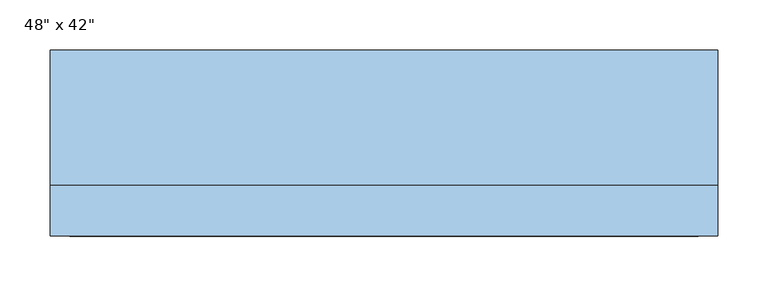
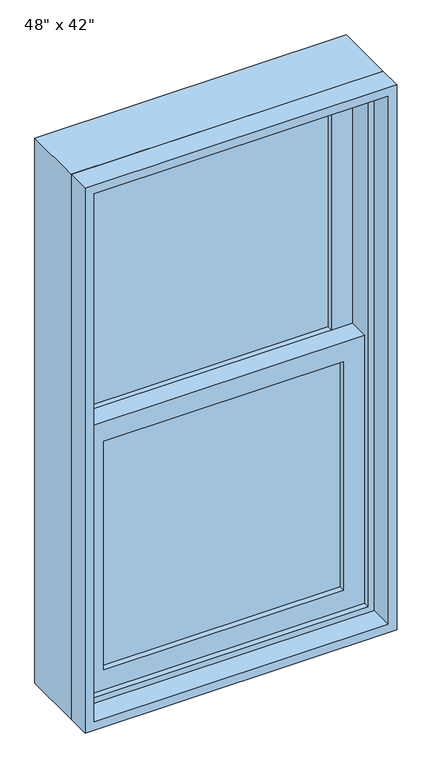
"""IFC4 building model written with IfcOpenShell, lengths in millimetres: window geometry."""

from ifc_helpers import new_model, si_unit, frame, origin, place, context, project, spatial, polyline, outline, extrude, source, transform, mapped, element, save


def window_dda3fa21(model_context):
    return source(origin(), model_context, "Body", "SweptSolid", [
        extrude(outline(polyline([(254.0, 12.7), (254.0, 6.35), (-254.0, 6.35), (-254.0, 12.7), (254.0, 12.7)])), frame((0.0, 0.0, 990.6), z_axis=(0.0, 0.0, 1.0), x_axis=(1.0, 0.0, 0.0)), (0.0, 0.0, 1.0), 511.175),
        extrude(outline(polyline([(-254.0, 0.0), (254.0, 0.0), (254.0, -6.35), (-254.0, -6.35), (-254.0, 0.0)])), frame((0.0, 0.0, 990.6), z_axis=(0.0, 0.0, 1.0), x_axis=(1.0, 0.0, 0.0)), (0.0, 0.0, 1.0), 511.175),
        extrude(outline(polyline([(254.0, 57.15), (254.0, 50.8), (-254.0, 50.8), (-254.0, 57.15), (254.0, 57.15)])), frame((0.0, 0.0, 1546.225), z_axis=(0.0, 0.0, 1.0), x_axis=(1.0, 0.0, 0.0)), (0.0, 0.0, 1.0), 511.175),
        extrude(outline(polyline([(-254.0, 44.45), (254.0, 44.45), (254.0, 38.1), (-254.0, 38.1), (-254.0, 44.45)])), frame((0.0, 0.0, 1546.225), z_axis=(0.0, 0.0, 1.0), x_axis=(1.0, 0.0, 0.0)), (0.0, 0.0, 1.0), 511.175),
        extrude(outline(polyline([(1546.225, -298.45), (946.15, -298.45), (946.15, 298.45), (1546.225, 298.45), (1546.225, -298.45)]), holes=[polyline([(1501.775, 254.0), (990.6, 254.0), (990.6, -254.0), (1501.775, -254.0), (1501.775, 254.0)])]), frame((0.0, -19.05, 0.0), z_axis=(0.0, 1.0, 0.0), x_axis=(0.0, 0.0, 1.0)), (0.0, 0.0, 1.0), 44.45),
        extrude(outline(polyline([(2101.85, -298.45), (1501.775, -298.45), (1501.775, 298.45), (2101.85, 298.45), (2101.85, -298.45)]), holes=[polyline([(2057.4, 254.0), (1546.225, 254.0), (1546.225, -254.0), (2057.4, -254.0), (2057.4, 254.0)])]), frame((0.0, 25.4, 0.0), z_axis=(0.0, 1.0, 0.0), x_axis=(0.0, 0.0, 1.0)), (0.0, 0.0, 1.0), 44.45),
        extrude(outline(polyline([(2133.6, -330.2), (914.4, -330.2), (914.4, 330.2), (2133.6, 330.2), (2133.6, -330.2)]), holes=[polyline([(2101.85, 298.45), (946.15, 298.45), (946.15, -298.45), (2101.85, -298.45), (2101.85, 298.45)])]), frame((0.0, -31.75, 0.0), z_axis=(0.0, 1.0, 0.0), x_axis=(0.0, 0.0, 1.0)), (0.0, 0.0, 1.0), 133.35),
        extrude(outline(polyline([(2133.6, 330.2), (2133.6, -330.2), (914.4, -330.2), (914.4, 330.2), (2133.6, 330.2)]), holes=[polyline([(2114.55, 311.15), (933.45, 311.15), (933.45, -311.15), (2114.55, -311.15), (2114.55, 311.15)])]), frame((0.0, -82.55, 0.0), z_axis=(0.0, 1.0, 0.0), x_axis=(0.0, 0.0, 1.0)), (0.0, 0.0, 1.0), 50.8),
    ])


if __name__ == "__main__":
    model = new_model("IFC4")
    model_context = context("Model", 3, world=origin())
    ifc_project = project(units=[si_unit("LENGTHUNIT", "METRE", prefix="MILLI")], contexts=[model_context])
    site = spatial("IfcSite", under=ifc_project)
    building = spatial("IfcBuilding", under=site)
    placement = place(None, origin())
    window_shape = window_dda3fa21(model_context)
    element("IfcWindow", 1, ObjectType="Planitar-Double-Hung-Single : 48\" x 42\"", at=placement, inside=building, context=model_context, shape_type="MappedRepresentation", body=[
        mapped(window_shape, transform((0.0, 0.0, 0.0), x_axis=(1.0, 0.0, 0.0), y_axis=(0.0, 1.0, 0.0), z_axis=(0.0, 0.0, 1.0))),
    ])
    save(model, "model.ifc")
